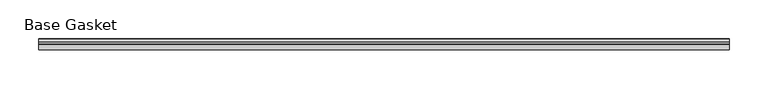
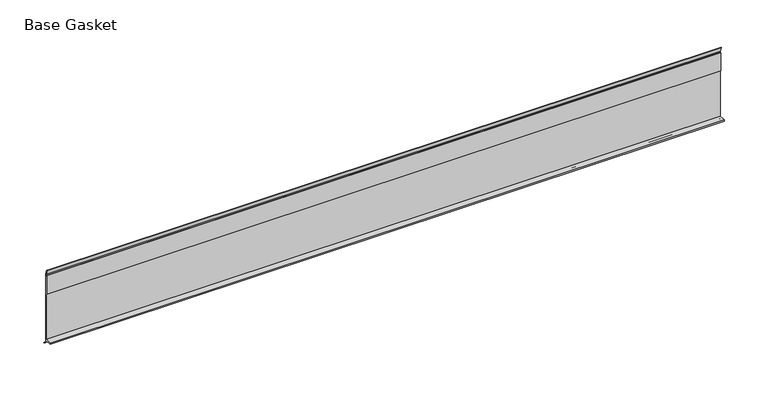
"""IFC4 building model written with IfcOpenShell, lengths in millimetres: furniture geometry, Gasket-Teknion-FHGB-AI_Healthcare-R2021 : Base Gasket."""

from ifc_helpers import new_model, si_unit, frame, origin, place, context, project, spatial, polyline, outline, extrude, source, transform, mapped, element, save


def base_gasket_2d033d90(model_context):
    return source(origin(), model_context, "Body", "SweptSolid", [
        extrude(outline(polyline([(3.7283812, 98.4568417), (3.7283812, 4.3498477), (7.4222115, 0.6560174), (7.8482342, 0.0), (6.8281054, 0.3520979), (2.2043812, 4.3498477), (2.1334222, 6.3818476), (-6.2405171, 6.3818476), (-6.2405171, 7.9398773), (2.2043812, 7.9398773), (2.2043812, 71.4693447), (1.4106313, 71.4693447), (1.4106313, 96.8693477), (2.2043812, 96.8693477), (2.2043812, 98.4568417), (0.6755308, 104.4162708), (0.6755308, 105.2002997), (1.1891543, 104.587663), (3.7283812, 98.4568417)])), frame((-1527.8982117, 0.0, 0.0), z_axis=(1.0, 0.0, 0.0), x_axis=(0.0, 1.0, 0.0)), (0.0, 0.0, 1.0), 886.9023403),
    ])


if __name__ == "__main__":
    model = new_model("IFC4")
    model_context = context("Model", 3, world=origin())
    ifc_project = project(units=[si_unit("LENGTHUNIT", "METRE", prefix="MILLI")], contexts=[model_context])
    site = spatial("IfcSite", under=ifc_project)
    building = spatial("IfcBuilding", under=site)
    placement = place(None, origin())
    base_gasket_shape = base_gasket_2d033d90(model_context)
    element("IfcFurniture", 1, ObjectType="Gasket-Teknion-FHGB-AI_Healthcare-R2021 : Base Gasket", at=placement, inside=building, context=model_context, shape_type="MappedRepresentation", body=[
        mapped(base_gasket_shape, transform((0.0, 0.0, 0.0), x_axis=(1.0, 0.0, 0.0), y_axis=(0.0, 1.0, 0.0), z_axis=(0.0, 0.0, 1.0))),
    ])
    save(model, "model.ifc")
